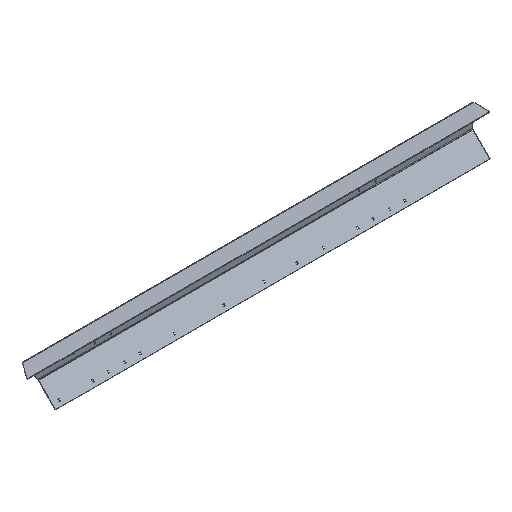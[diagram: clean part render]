
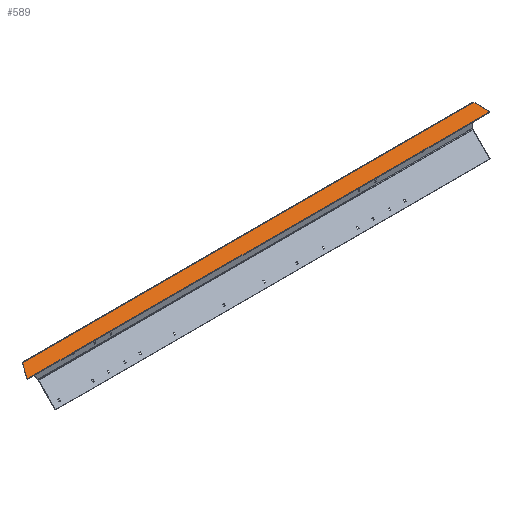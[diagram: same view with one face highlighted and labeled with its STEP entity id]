
A CAD part, isometric view. The second image highlights one B-rep face of the part: STEP entity #589.
In plain terms, the highlighted planar face has unit normal (0, 0, 1).
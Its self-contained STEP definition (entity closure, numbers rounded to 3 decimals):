
#259=FACE_OUTER_BOUND('',#1217,.T.);
#589=ADVANCED_FACE('',(#259),#906,.F.);
#906=PLANE('',#6969);
#1217=EDGE_LOOP('',(#2538,#2539,#2540,#2541,#2542,#2543,#2544,#2545,#2546,
#2547,#2548,#2549,#2550,#2551,#2552,#2553,#2554,#2555,#2556,#2557,#2558,
#2559,#2560,#2561));
#1814=CIRCLE('',#6956,5.);
#1815=CIRCLE('',#6958,2.);
#1816=CIRCLE('',#6959,1.);
#1817=CIRCLE('',#6960,1.);
#1818=CIRCLE('',#6961,1.);
#1819=CIRCLE('',#6962,1.);
#1820=CIRCLE('',#6963,1.);
#1821=CIRCLE('',#6964,1.);
#1822=CIRCLE('',#6965,1.);
#1823=CIRCLE('',#6966,1.);
#1824=CIRCLE('',#6967,2.);
#1825=CIRCLE('',#6968,5.);
#2538=ORIENTED_EDGE('',*,*,#5008,.T.);
#2539=ORIENTED_EDGE('',*,*,#5063,.T.);
#2540=ORIENTED_EDGE('',*,*,#5010,.T.);
#2541=ORIENTED_EDGE('',*,*,#5064,.T.);
#2542=ORIENTED_EDGE('',*,*,#5014,.T.);
#2543=ORIENTED_EDGE('',*,*,#5065,.T.);
#2544=ORIENTED_EDGE('',*,*,#5018,.T.);
#2545=ORIENTED_EDGE('',*,*,#5066,.T.);
#2546=ORIENTED_EDGE('',*,*,#5022,.T.);
#2547=ORIENTED_EDGE('',*,*,#5067,.T.);
#2548=ORIENTED_EDGE('',*,*,#5026,.T.);
#2549=ORIENTED_EDGE('',*,*,#5068,.T.);
#2550=ORIENTED_EDGE('',*,*,#5030,.T.);
#2551=ORIENTED_EDGE('',*,*,#5069,.T.);
#2552=ORIENTED_EDGE('',*,*,#5034,.T.);
#2553=ORIENTED_EDGE('',*,*,#5070,.T.);
#2554=ORIENTED_EDGE('',*,*,#5038,.T.);
#2555=ORIENTED_EDGE('',*,*,#5071,.T.);
#2556=ORIENTED_EDGE('',*,*,#5044,.T.);
#2557=ORIENTED_EDGE('',*,*,#5072,.T.);
#2558=ORIENTED_EDGE('',*,*,#5046,.F.);
#2559=ORIENTED_EDGE('',*,*,#5062,.T.);
#2560=ORIENTED_EDGE('',*,*,#5004,.F.);
#2561=ORIENTED_EDGE('',*,*,#5073,.T.);
#4343=VERTEX_POINT('',#10400);
#4345=VERTEX_POINT('',#10415);
#4352=VERTEX_POINT('',#10538);
#4353=VERTEX_POINT('',#10540);
#4354=VERTEX_POINT('',#10544);
#4355=VERTEX_POINT('',#10545);
#4358=VERTEX_POINT('',#10553);
#4359=VERTEX_POINT('',#10554);
#4362=VERTEX_POINT('',#10562);
#4363=VERTEX_POINT('',#10563);
#4366=VERTEX_POINT('',#10571);
#4367=VERTEX_POINT('',#10572);
#4370=VERTEX_POINT('',#10580);
#4371=VERTEX_POINT('',#10581);
#4374=VERTEX_POINT('',#10589);
#4375=VERTEX_POINT('',#10590);
#4378=VERTEX_POINT('',#10598);
#4379=VERTEX_POINT('',#10599);
#4382=VERTEX_POINT('',#10607);
#4383=VERTEX_POINT('',#10608);
#4388=VERTEX_POINT('',#10619);
#4389=VERTEX_POINT('',#10621);
#4390=VERTEX_POINT('',#10625);
#4391=VERTEX_POINT('',#10626);
#5004=EDGE_CURVE('',#4343,#4345,#5672,.T.);
#5008=EDGE_CURVE('',#4353,#4352,#5676,.T.);
#5010=EDGE_CURVE('',#4354,#4355,#5678,.T.);
#5014=EDGE_CURVE('',#4358,#4359,#5682,.T.);
#5018=EDGE_CURVE('',#4362,#4363,#5686,.T.);
#5022=EDGE_CURVE('',#4366,#4367,#5690,.T.);
#5026=EDGE_CURVE('',#4370,#4371,#5694,.T.);
#5030=EDGE_CURVE('',#4374,#4375,#5698,.T.);
#5034=EDGE_CURVE('',#4378,#4379,#5702,.T.);
#5038=EDGE_CURVE('',#4382,#4383,#5706,.T.);
#5044=EDGE_CURVE('',#4389,#4388,#5712,.T.);
#5046=EDGE_CURVE('',#4390,#4391,#5714,.T.);
#5062=EDGE_CURVE('',#4390,#4345,#1814,.T.);
#5063=EDGE_CURVE('',#4352,#4354,#1815,.T.);
#5064=EDGE_CURVE('',#4355,#4358,#1816,.T.);
#5065=EDGE_CURVE('',#4359,#4362,#1817,.T.);
#5066=EDGE_CURVE('',#4363,#4366,#1818,.T.);
#5067=EDGE_CURVE('',#4367,#4370,#1819,.T.);
#5068=EDGE_CURVE('',#4371,#4374,#1820,.T.);
#5069=EDGE_CURVE('',#4375,#4378,#1821,.T.);
#5070=EDGE_CURVE('',#4379,#4382,#1822,.T.);
#5071=EDGE_CURVE('',#4383,#4389,#1823,.T.);
#5072=EDGE_CURVE('',#4388,#4391,#1824,.T.);
#5073=EDGE_CURVE('',#4343,#4353,#1825,.T.);
#5672=LINE('',#10530,#6304);
#5676=LINE('',#10539,#6308);
#5678=LINE('',#10543,#6310);
#5682=LINE('',#10552,#6314);
#5686=LINE('',#10561,#6318);
#5690=LINE('',#10570,#6322);
#5694=LINE('',#10579,#6326);
#5698=LINE('',#10588,#6330);
#5702=LINE('',#10597,#6334);
#5706=LINE('',#10606,#6338);
#5712=LINE('',#10620,#6344);
#5714=LINE('',#10624,#6346);
#6304=VECTOR('',#8156,1.);
#6308=VECTOR('',#8164,1.);
#6310=VECTOR('',#8168,1.);
#6314=VECTOR('',#8174,1.);
#6318=VECTOR('',#8180,1.);
#6322=VECTOR('',#8186,1.);
#6326=VECTOR('',#8192,1.);
#6330=VECTOR('',#8198,1.);
#6334=VECTOR('',#8204,1.);
#6338=VECTOR('',#8210,1.);
#6344=VECTOR('',#8218,1.);
#6346=VECTOR('',#8222,1.);
#6956=AXIS2_PLACEMENT_3D('',#10646,#8254,#8255);
#6958=AXIS2_PLACEMENT_3D('',#10648,#8258,#8259);
#6959=AXIS2_PLACEMENT_3D('',#10649,#8260,#8261);
#6960=AXIS2_PLACEMENT_3D('',#10650,#8262,#8263);
#6961=AXIS2_PLACEMENT_3D('',#10651,#8264,#8265);
#6962=AXIS2_PLACEMENT_3D('',#10652,#8266,#8267);
#6963=AXIS2_PLACEMENT_3D('',#10653,#8268,#8269);
#6964=AXIS2_PLACEMENT_3D('',#10654,#8270,#8271);
#6965=AXIS2_PLACEMENT_3D('',#10655,#8272,#8273);
#6966=AXIS2_PLACEMENT_3D('',#10656,#8274,#8275);
#6967=AXIS2_PLACEMENT_3D('',#10657,#8276,#8277);
#6968=AXIS2_PLACEMENT_3D('',#10658,#8278,#8279);
#6969=AXIS2_PLACEMENT_3D('',#10659,#8280,#8281);
#8156=DIRECTION('',(1.,0.,0.));
#8164=DIRECTION('',(-0.578,-0.816,0.));
#8168=DIRECTION('',(1.,0.,0.));
#8174=DIRECTION('',(0.,-1.,0.));
#8180=DIRECTION('',(1.,0.,0.));
#8186=DIRECTION('',(0.,1.,0.));
#8192=DIRECTION('',(1.,0.,0.));
#8198=DIRECTION('',(0.,-1.,0.));
#8204=DIRECTION('',(1.,0.,0.));
#8210=DIRECTION('',(0.,1.,0.));
#8218=DIRECTION('',(1.,0.,0.));
#8222=DIRECTION('',(0.,-1.,0.));
#8254=DIRECTION('',(0.,0.,1.));
#8255=DIRECTION('',(0.,1.,0.));
#8258=DIRECTION('',(0.,0.,1.));
#8259=DIRECTION('',(0.,1.,0.));
#8260=DIRECTION('',(0.,0.,-1.));
#8261=DIRECTION('',(0.,1.,0.));
#8262=DIRECTION('',(0.,0.,1.));
#8263=DIRECTION('',(0.,1.,0.));
#8264=DIRECTION('',(0.,0.,1.));
#8265=DIRECTION('',(0.,1.,0.));
#8266=DIRECTION('',(0.,0.,-1.));
#8267=DIRECTION('',(0.,1.,0.));
#8268=DIRECTION('',(0.,0.,-1.));
#8269=DIRECTION('',(0.,1.,0.));
#8270=DIRECTION('',(0.,0.,1.));
#8271=DIRECTION('',(0.,1.,0.));
#8272=DIRECTION('',(0.,0.,1.));
#8273=DIRECTION('',(0.,1.,0.));
#8274=DIRECTION('',(0.,0.,-1.));
#8275=DIRECTION('',(0.,1.,0.));
#8276=DIRECTION('',(0.,0.,1.));
#8277=DIRECTION('',(0.,1.,0.));
#8278=DIRECTION('',(0.,0.,1.));
#8279=DIRECTION('',(0.,1.,0.));
#8280=DIRECTION('',(0.,0.,-1.));
#8281=DIRECTION('',(0.,1.,0.));
#10400=CARTESIAN_POINT('',(-3393.195,-14.,0.));
#10415=CARTESIAN_POINT('',(95.821,-14.,0.));
#10530=CARTESIAN_POINT('',(0.,-14.,0.));
#10538=CARTESIAN_POINT('',(-3480.266,-136.844,0.));
#10539=CARTESIAN_POINT('',(-2253.6,1595.638,0.));
#10540=CARTESIAN_POINT('',(-3393.756,-14.662,0.));
#10543=CARTESIAN_POINT('',(0.,-140.,0.));
#10544=CARTESIAN_POINT('',(-3478.633,-140.,0.));
#10545=CARTESIAN_POINT('',(-3135.5,-140.,0.));
#10552=CARTESIAN_POINT('',(-3134.5,-140.,0.));
#10553=CARTESIAN_POINT('',(-3134.5,-141.,0.));
#10554=CARTESIAN_POINT('',(-3134.5,-145.,0.));
#10561=CARTESIAN_POINT('',(-3134.5,-146.,0.));
#10562=CARTESIAN_POINT('',(-3133.5,-146.,0.));
#10563=CARTESIAN_POINT('',(-3125.5,-146.,0.));
#10570=CARTESIAN_POINT('',(-3124.5,-146.,0.));
#10571=CARTESIAN_POINT('',(-3124.5,-145.,0.));
#10572=CARTESIAN_POINT('',(-3124.5,-141.,0.));
#10579=CARTESIAN_POINT('',(0.,-140.,0.));
#10580=CARTESIAN_POINT('',(-3123.5,-140.,0.));
#10581=CARTESIAN_POINT('',(-435.5,-140.,0.));
#10588=CARTESIAN_POINT('',(-434.5,-140.,0.));
#10589=CARTESIAN_POINT('',(-434.5,-141.,0.));
#10590=CARTESIAN_POINT('',(-434.5,-145.,0.));
#10597=CARTESIAN_POINT('',(-434.5,-146.,0.));
#10598=CARTESIAN_POINT('',(-433.5,-146.,0.));
#10599=CARTESIAN_POINT('',(-425.5,-146.,0.));
#10606=CARTESIAN_POINT('',(-424.5,-146.,0.));
#10607=CARTESIAN_POINT('',(-424.5,-145.,0.));
#10608=CARTESIAN_POINT('',(-424.5,-141.,0.));
#10619=CARTESIAN_POINT('',(94.,-140.,0.));
#10620=CARTESIAN_POINT('',(0.,-140.,0.));
#10621=CARTESIAN_POINT('',(-423.5,-140.,0.));
#10624=CARTESIAN_POINT('',(96.,0.,0.));
#10625=CARTESIAN_POINT('',(96.,-15.326,0.));
#10626=CARTESIAN_POINT('',(96.,-138.,0.));
#10646=CARTESIAN_POINT('',(91.,-15.326,0.));
#10648=CARTESIAN_POINT('',(-3478.633,-138.,0.));
#10649=CARTESIAN_POINT('',(-3135.5,-141.,0.));
#10650=CARTESIAN_POINT('',(-3133.5,-145.,0.));
#10651=CARTESIAN_POINT('',(-3125.5,-145.,0.));
#10652=CARTESIAN_POINT('',(-3123.5,-141.,0.));
#10653=CARTESIAN_POINT('',(-435.5,-141.,0.));
#10654=CARTESIAN_POINT('',(-433.5,-145.,0.));
#10655=CARTESIAN_POINT('',(-425.5,-145.,0.));
#10656=CARTESIAN_POINT('',(-423.5,-141.,0.));
#10657=CARTESIAN_POINT('',(94.,-138.,0.));
#10658=CARTESIAN_POINT('',(-3389.675,-17.551,0.));
#10659=CARTESIAN_POINT('',(0.,0.,0.));
